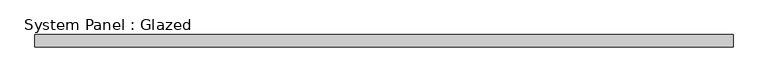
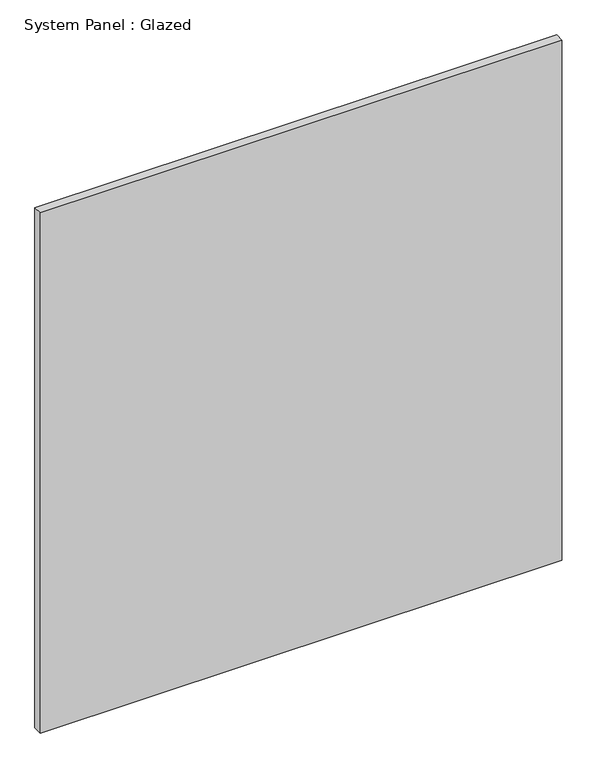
"""IFC4 building model written with IfcOpenShell, lengths in millimetres: plate geometry, System Panel : Glazed."""

from ifc_helpers import new_model, si_unit, origin, origin_with_axes, place, context, project, spatial, polyline, outline, extrude, source, transform, mapped, element, save


def system_panel_glazed_b4d3aff4(model_context):
    return source(origin(), model_context, "Body", "SweptSolid", [
        extrude(outline(polyline([(712.5, 24.5), (-712.5, 24.5), (-712.5, 49.5), (712.5, 49.5), (712.5, 24.5)])), origin_with_axes(), (0.0, 0.0, 1.0), 1501.9163327),
    ])


if __name__ == "__main__":
    model = new_model("IFC4")
    model_context = context("Model", 3, world=origin())
    ifc_project = project(units=[si_unit("LENGTHUNIT", "METRE", prefix="MILLI")], contexts=[model_context])
    site = spatial("IfcSite", under=ifc_project)
    building = spatial("IfcBuilding", under=site)
    placement = place(None, origin())
    system_panel_glazed_shape = system_panel_glazed_b4d3aff4(model_context)
    element("IfcPlate", 1, ObjectType="System Panel : Glazed", at=placement, inside=building, context=model_context, shape_type="MappedRepresentation", body=[
        mapped(system_panel_glazed_shape, transform((0.0, 0.0, 0.0), x_axis=(1.0, 0.0, 0.0), y_axis=(0.0, 1.0, 0.0), z_axis=(0.0, 0.0, 1.0))),
    ])
    save(model, "model.ifc")
